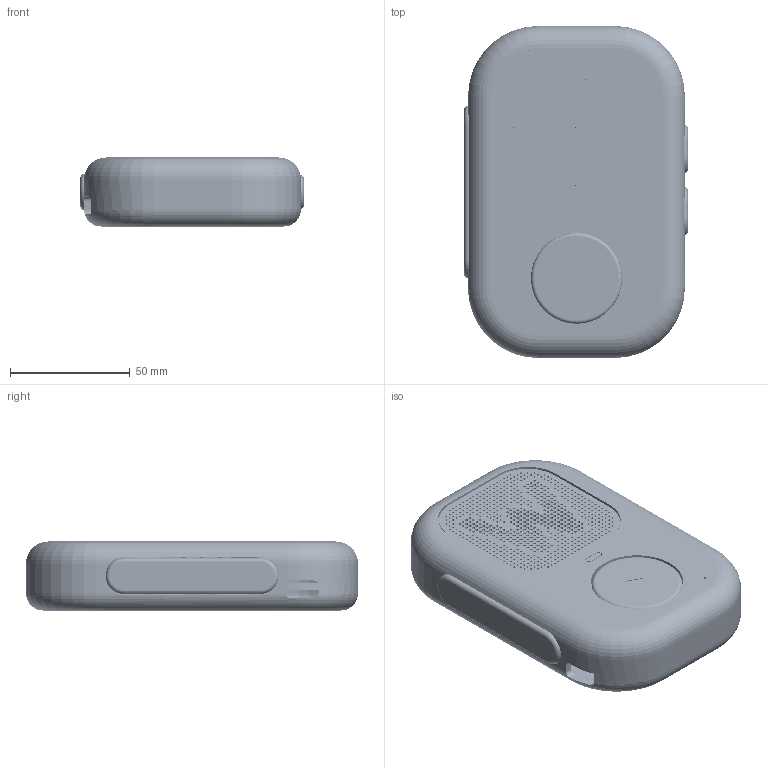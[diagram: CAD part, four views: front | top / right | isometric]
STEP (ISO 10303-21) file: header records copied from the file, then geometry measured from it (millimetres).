
FILE_DESCRIPTION(('Open CASCADE Model'),'2;1');
FILE_NAME('Open CASCADE Shape Model','2026-09-08T16:16:30',('Author'),( 'Open CASCADE'),'Open CASCADE STEP processor 7.7','Open CASCADE 7.7' ,'Unknown');
FILE_SCHEMA(('AUTOMOTIVE_DESIGN { 1 0 10303 214 1 1 1 1 }'));
Length unit declared in the file: millimetre
Products named in the file (74): Walkie_One_21_2B_SWITCH_RETENTION_SR1; 07_W_grille; 07_W_grille_part; 11_Speaker_cradle; 11_Speaker_cradle_part; 06_Status_lens; 06_Status_lens_part; FRONT_SWITCH_REACTION_PLATE; FRONT_SWITCH_REACTION_PLATE_part; 09_Grille_bond_frame; 09_Grille_bond_frame_part; 02_Soft_grips; 02_Soft_grips_part; FRONT_SWITCH_GUIDE_AND_MOUNT; FRONT_SWITCH_GUIDE_AND_MOUNT_part; 12_Rear_alignment_lip; 12_Rear_alignment_lip_part; 13_Microphone_seat; 13_Microphone_seat_part; 04_PTT_paddle; 04_PTT_paddle_part; 01a_Rigid_housing_front; 01a_Rigid_housing_front_part; 14_Play_glyph_inlay; 14_Play_glyph_inlay_part; 03_Play_key_38mm; 03_Play_key_38mm_part; 01b_Rigid_housing_rear; 01b_Rigid_housing_rear_part; 08_Acoustic_backing_REFERENCE; 08_Acoustic_backing_REFERENCE_part; 05_volume_down_key; 05_volume_down_key_part; 05_volume_up_key; 05_volume_up_key_part; PTT_SWITCH_REAR_KEEPER; PTT_SWITCH_REAR_KEEPER_part; VOLUME_UP_SWITCH_REAR_KEEPER; VOLUME_UP_SWITCH_REAR_KEEPER_part; VOLUME_DOWN_SWITCH_REAR_KEEPER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
Assembly tree (73 placements, depth 4):
  Walkie_One_21_2B_SWITCH_RETENTION_SR1
    Walkie_One_21_2B_SWITCH_RETENTION_SR1
      07_W_grille
        07_W_grille_part
      11_Speaker_cradle
        11_Speaker_cradle_part
      06_Status_lens
        06_Status_lens_part
      FRONT_SWITCH_REACTION_PLATE
        FRONT_SWITCH_REACTION_PLATE_part
      09_Grille_bond_frame
        09_Grille_bond_frame_part
      02_Soft_grips
        02_Soft_grips_part
      FRONT_SWITCH_GUIDE_AND_MOUNT
        FRONT_SWITCH_GUIDE_AND_MOUNT_part
      12_Rear_alignment_lip
        12_Rear_alignment_lip_part
      13_Microphone_seat
        13_Microphone_seat_part
      04_PTT_paddle
        04_PTT_paddle_part
      01a_Rigid_housing_front
        01a_Rigid_housing_front_part
      14_Play_glyph_inlay
        14_Play_glyph_inlay_part
      03_Play_key_38mm
        03_Play_key_38mm_part
      01b_Rigid_housing_rear
        01b_Rigid_housing_rear_part
      08_Acoustic_backing_REFERENCE
        08_Acoustic_backing_REFERENCE_part
      05_volume_down_key
        05_volume_down_key_part
      05_volume_up_key
        05_volume_up_key_part
      PTT_SWITCH_REAR_KEEPER
        PTT_SWITCH_REAR_KEEPER_part
      VOLUME_UP_SWITCH_REAR_KEEPER
        VOLUME_UP_SWITCH_REAR_KEEPER_part
      VOLUME_DOWN_SWITCH_REAR_KEEPER
        VOLUME_DOWN_SWITCH_REAR_KEEPER_part
      FRONT_CARRIER_M2x4_1
        FRONT_CARRIER_M2x4_1_part
      FRONT_BACKPLATE_M2x5_-8.6_-5.5
        FRONT_BACKPLATE_M2x5_-8.6_-5.5_part
      REF_OMRON_B3F4000_ACTUAL
        REF_OMRON_B3F4000_ACTUAL_part
      FRONT_BACKPLATE_M2x5_-8.6_5.5
        FRONT_BACKPLATE_M2x5_-8.6_5.5_part
      FRONT_BACKPLATE_M2x5_8.6_5.5
        FRONT_BACKPLATE_M2x5_8.6_5.5_part
      FRONT_BACKPLATE_M2x5_8.6_-5.5
        FRONT_BACKPLATE_M2x5_8.6_-5.5_part
      FRONT_CARRIER_M2x4_-1
        FRONT_CARRIER_M2x4_-1_part
      PTT_OMRON_B3F3150
        PTT_OMRON_B3F3150_part
      PTT_KEEPER_M2x6_1
        PTT_KEEPER_M2x6_1_part
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Bounding box: 93.2 x 138.4 x 28.8 mm (x, y, z)
Volume: 100417.1 mm3; surface area: 139272.3 mm2
Topology: 62 solids, 62 shells, 4681 faces, 9629 edges, 5123 vertices
Faces by surface type: plane 3656, cylinder 980, torus 45
Full cylindrical faces by diameter (mm): 0.9 x452, 1.1 x85, 1.2 x2, 1.25 x73, 1.4 x111, 1.7 x12, 1.96 x12, 2.2 x12, 3 x1, 3.7 x6, 3.8 x6, 4 x1, 4.4 x1, 5.4 x2, 7.6 x1, 38 x1, 38.6 x2, 40.5 x1, 40.6 x1, 41 x1, 43.2 x1
Entity records: 252774 total; most frequent: CARTESIAN_POINT 48219, DIRECTION 39049, LINE 24419, VECTOR 24419, ORIENTED_EDGE 19258, PCURVE 19258, DEFINITIONAL_REPRESENTATION 19258, EDGE_CURVE 9629
